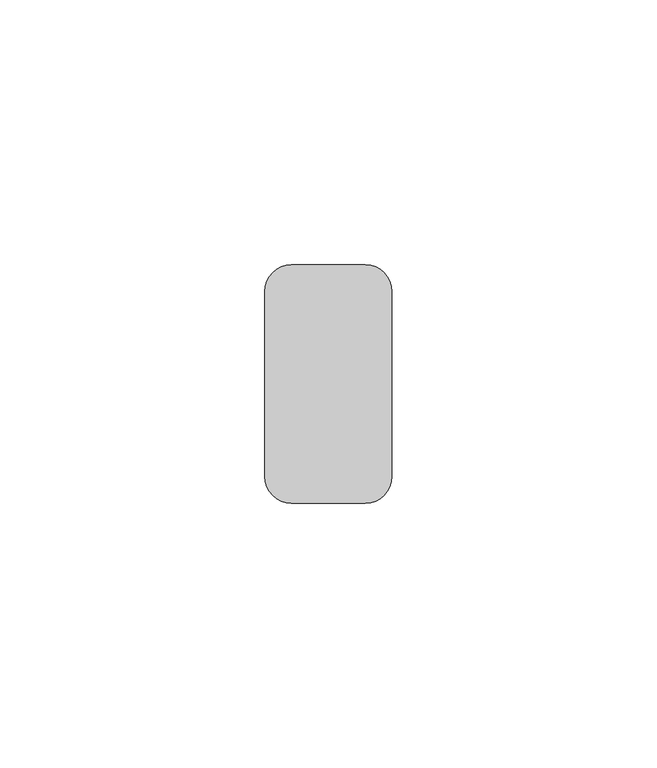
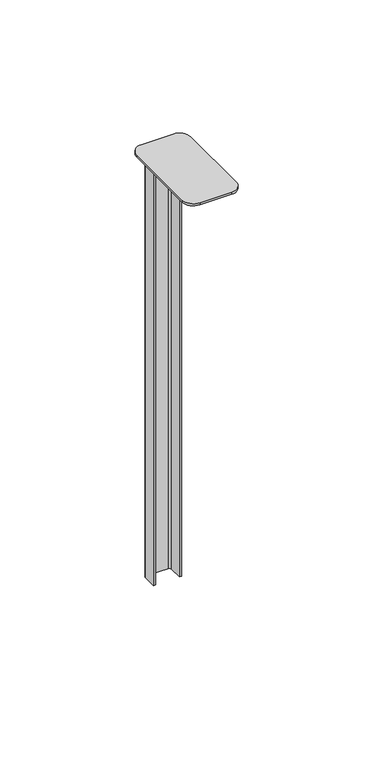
"""IFC4 building model written with IfcOpenShell, lengths in millimetres: proxy geometry, durlum_U1300 : durlum_U1300."""

from ifc_helpers import new_model, si_unit, point, frame, frame_2d, origin, place, context, project, spatial, polyline, circle_curve, trimmed, segment, composite_curve, outline, extrude, source, transform, mapped, element, save


def generic_models_da7def32(model_context):
    return source(origin(), model_context, "Body", "SweptSolid", [
        extrude(outline(composite_curve([segment(trimmed(circle_curve(frame_2d((7.0, -5.0)), 5.0), [point((7.0, 0.0))], [point((12.0, -5.0))], False, "CARTESIAN"), True, "CONTINUOUS"), segment(polyline([(12.0, -5.0), (12.0, -40.0)]), True, "CONTINUOUS"), segment(trimmed(circle_curve(frame_2d((7.0, -40.0)), 5.0), [point((12.0, -40.0))], [point((7.0, -45.0))], False, "CARTESIAN"), True, "CONTINUOUS"), segment(polyline([(7.0, -45.0), (-7.0, -45.0)]), True, "CONTINUOUS"), segment(trimmed(circle_curve(frame_2d((-7.0, -40.0)), 5.0), [point((-7.0, -45.0))], [point((-12.0, -40.0))], False, "CARTESIAN"), True, "CONTINUOUS"), segment(polyline([(-12.0, -40.0), (-12.0, -5.0)]), True, "CONTINUOUS"), segment(trimmed(circle_curve(frame_2d((-7.0, -5.0)), 5.0), [point((-12.0, -5.0))], [point((-7.0, 0.0))], False, "CARTESIAN"), True, "CONTINUOUS"), segment(polyline([(-7.0, 0.0), (7.0, 0.0)]), True, "CONTINUOUS")], self_intersect=False)), frame((0.0, 0.0, 917.5875318), z_axis=(0.0, 0.0, 1.0), x_axis=(1.0, 0.0, 0.0)), (0.0, 0.0, 1.0), 1.0),
        extrude(outline(composite_curve([segment(trimmed(circle_curve(frame_2d((-4.25, -2.0)), 2.0), [point((-6.25, -2.0))], [point((-4.25, 0.0))], False, "CARTESIAN"), True, "CONTINUOUS"), segment(polyline([(-4.25, 0.0), (4.25, 0.0)]), True, "CONTINUOUS"), segment(trimmed(circle_curve(frame_2d((4.25, -2.0)), 2.0), [point((4.25, 0.0))], [point((6.25, -2.0))], False, "CARTESIAN"), True, "CONTINUOUS"), segment(polyline([(6.25, -2.0), (6.25, -8.0), (5.25, -8.0), (5.25, -2.0)]), True, "CONTINUOUS"), segment(trimmed(circle_curve(frame_2d((4.25, -2.0)), 1.0), [point((5.25, -2.0))], [point((4.25, -1.0))], True, "CARTESIAN"), True, "CONTINUOUS"), segment(polyline([(4.25, -1.0), (-4.25, -1.0)]), True, "CONTINUOUS"), segment(trimmed(circle_curve(frame_2d((-4.25, -2.0)), 1.0), [point((-4.25, -1.0))], [point((-5.25, -2.0))], True, "CARTESIAN"), True, "CONTINUOUS"), segment(polyline([(-5.25, -2.0), (-5.25, -8.0), (-6.25, -8.0), (-6.25, -2.0)]), True, "CONTINUOUS")], self_intersect=False)), frame((0.0, 0.0, 716.5875318), z_axis=(0.0, 0.0, 1.0), x_axis=(1.0, 0.0, 0.0)), (0.0, 0.0, 1.0), 201.0),
    ])


if __name__ == "__main__":
    model = new_model("IFC4")
    model_context = context("Model", 3, world=origin())
    ifc_project = project(units=[si_unit("LENGTHUNIT", "METRE", prefix="MILLI")], contexts=[model_context])
    site = spatial("IfcSite", under=ifc_project)
    building = spatial("IfcBuilding", under=site)
    placement = place(None, origin())
    generic_models_shape = generic_models_da7def32(model_context)
    element("IfcBuildingElementProxy", 1, Name="durlum_U1300 : durlum_U1300", ObjectType="durlum_U1300 : durlum_U1300", at=placement, inside=building, context=model_context, shape_type="MappedRepresentation", body=[
        mapped(generic_models_shape, transform((0.0, 0.0, 0.0), x_axis=(1.0, 0.0, 0.0), y_axis=(0.0, 1.0, 0.0), z_axis=(0.0, 0.0, 1.0))),
    ])
    save(model, "model.ifc")
